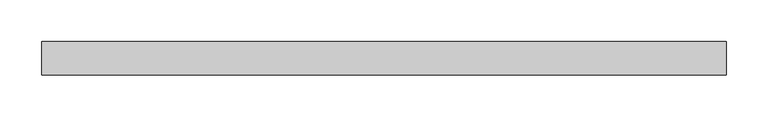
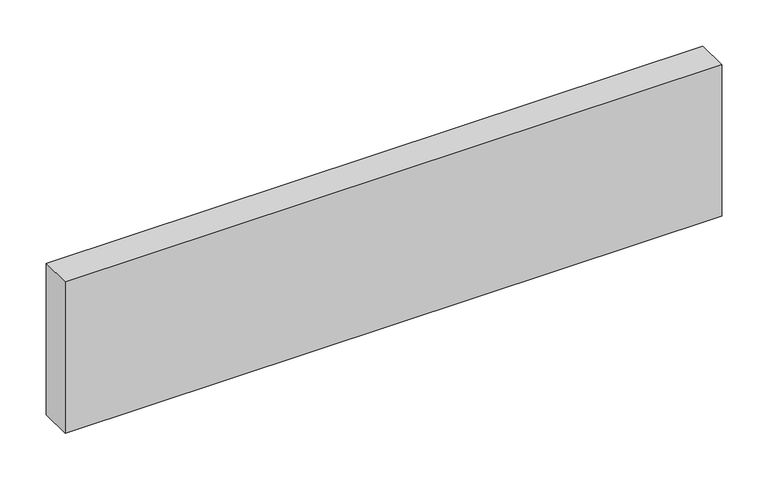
"""IFC4 building model written with IfcOpenShell, lengths in millimetres: plate geometry, Panneau système vide : Epaiss. 4cm."""

from ifc_helpers import new_model, si_unit, origin, origin_with_axes, place, context, project, spatial, polyline, outline, extrude, source, transform, mapped, element, save


def plate_dcc2c260(model_context):
    return source(origin(), model_context, "Body", "SweptSolid", [
        extrude(outline(polyline([(408.15, -20.0), (-408.15, -20.0), (-408.15, 20.0), (408.15, 20.0), (408.15, -20.0)])), origin_with_axes(), (0.0, 0.0, 1.0), 199.0),
    ])


if __name__ == "__main__":
    model = new_model("IFC4")
    model_context = context("Model", 3, world=origin())
    ifc_project = project(units=[si_unit("LENGTHUNIT", "METRE", prefix="MILLI")], contexts=[model_context])
    site = spatial("IfcSite", under=ifc_project)
    building = spatial("IfcBuilding", under=site)
    placement = place(None, origin())
    plate_shape = plate_dcc2c260(model_context)
    element("IfcPlate", 1, ObjectType="Panneau système vide : Epaiss. 4cm", at=placement, inside=building, context=model_context, shape_type="MappedRepresentation", body=[
        mapped(plate_shape, transform((0.0, 0.0, 0.0), x_axis=(1.0, 0.0, 0.0), y_axis=(0.0, 1.0, 0.0), z_axis=(0.0, 0.0, 1.0))),
    ])
    save(model, "model.ifc")
